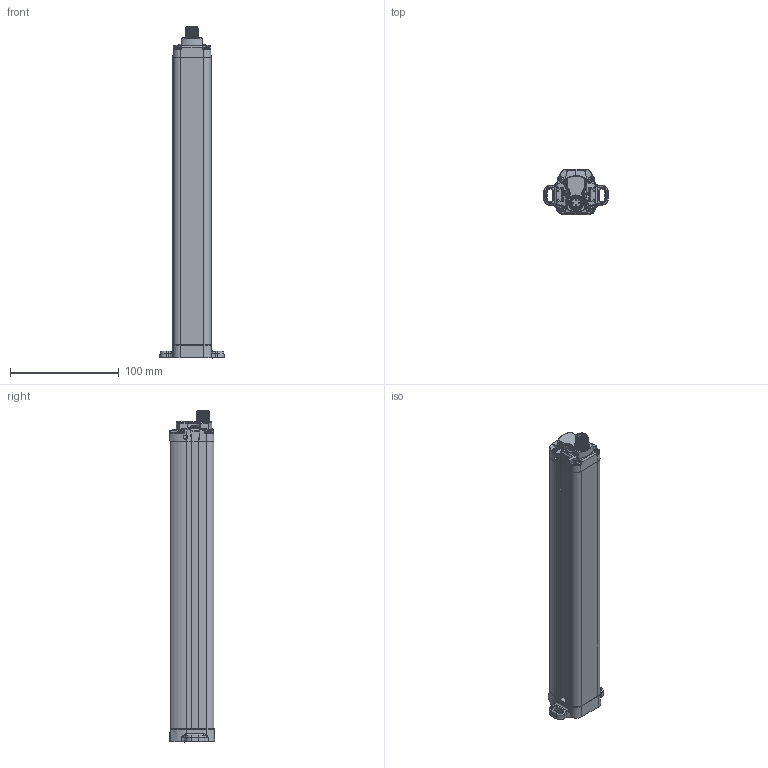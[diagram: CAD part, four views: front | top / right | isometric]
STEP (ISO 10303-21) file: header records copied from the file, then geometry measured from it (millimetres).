
FILE_DESCRIPTION(/* description */ (''),/* implementation_level */ '2;1');
FILE_NAME(/* name */ 'DSD-0587.stp',/* time_stamp */ '2015-03-10T15:29:46+01:00',/* author */ (''),/* organization */ (''),/* preprocessor_version */ 'ST-DEVELOPER v11',/* originating_system */ 'SIEMENS PLM Software NX 7.5',/* authorisation */ '');
FILE_SCHEMA (('AUTOMOTIVE_DESIGN { 1 0 10303 214 1 1 1 1 }'));
Products named in the file (1): model4
Bounding box: 59 x 41.56 x 304.93 mm (x, y, z)
Surface area: 55299 mm2 (no closed solid volume)
Topology: 0 solids, 900 shells, 900 faces, 4449 edges, 4395 vertices
Faces by surface type: bspline 305, plane 246, cylinder 195, torus 89, cone 51, sphere 14
Full cylindrical faces by diameter (mm): 1 x4, 5 x8, 8.3 x1, 10.4 x1, 10.55 x1, 12 x7, 14 x1, 14.3 x1
Entity records: 65764 total; most frequent: CARTESIAN_POINT 30098, ORIENTED_EDGE 4395, VERTEX_POINT 4395, EDGE_CURVE 4395, DIRECTION 4328, B_SPLINE_CURVE_WITH_KNOTS 1842, AXIS2_PLACEMENT_3D 1673, CIRCLE 1077
